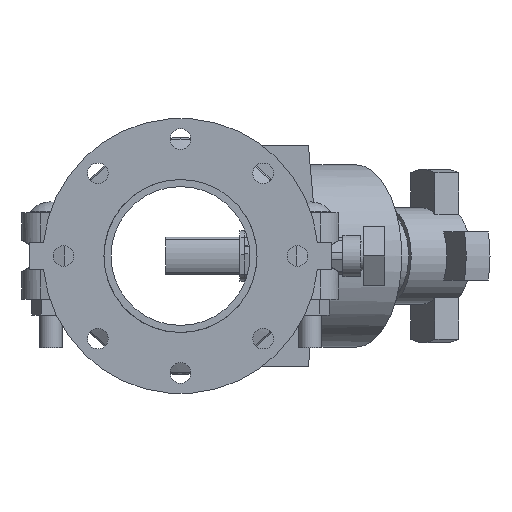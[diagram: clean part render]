
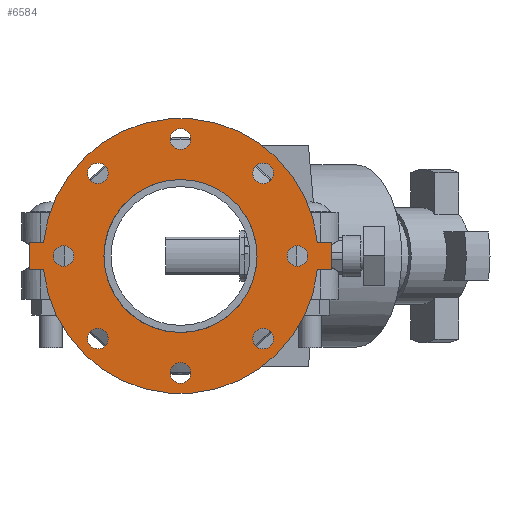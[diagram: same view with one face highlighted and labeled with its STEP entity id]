
A CAD part, front view. The second image highlights one B-rep face of the part: STEP entity #6584.
In plain terms, the highlighted planar face has unit normal (0, -1, 0) as drawn and (0, 0, 1) by its records, which use the part's own axes.
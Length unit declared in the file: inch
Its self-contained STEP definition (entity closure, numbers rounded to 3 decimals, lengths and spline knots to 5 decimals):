
#210=FACE_BOUND('',#872,.T.);
#211=FACE_BOUND('',#873,.T.);
#212=FACE_BOUND('',#874,.T.);
#213=FACE_BOUND('',#875,.T.);
#214=FACE_BOUND('',#876,.T.);
#215=FACE_BOUND('',#877,.T.);
#216=FACE_BOUND('',#878,.T.);
#217=FACE_BOUND('',#879,.T.);
#218=FACE_BOUND('',#880,.T.);
#284=PLANE('',#7166);
#504=FACE_OUTER_BOUND('',#871,.T.);
#871=EDGE_LOOP('',(#4293,#4294,#4295,#4296,#4297,#4298,#4299,#4300));
#872=EDGE_LOOP('',(#4301));
#873=EDGE_LOOP('',(#4302));
#874=EDGE_LOOP('',(#4303));
#875=EDGE_LOOP('',(#4304));
#876=EDGE_LOOP('',(#4305));
#877=EDGE_LOOP('',(#4306));
#878=EDGE_LOOP('',(#4307));
#879=EDGE_LOOP('',(#4308));
#880=EDGE_LOOP('',(#4309,#4310));
#1298=LINE('',#10084,#1789);
#1299=LINE('',#10087,#1790);
#1302=LINE('',#10092,#1793);
#1303=LINE('',#10095,#1794);
#1305=LINE('',#10098,#1796);
#1306=LINE('',#10100,#1797);
#1789=VECTOR('',#8013,0.3937);
#1790=VECTOR('',#8016,0.3937);
#1793=VECTOR('',#8021,0.3937);
#1794=VECTOR('',#8024,0.3937);
#1796=VECTOR('',#8028,0.3937);
#1797=VECTOR('',#8031,0.3937);
#2260=CIRCLE('',#7125,0.375);
#2262=CIRCLE('',#7128,0.375);
#2264=CIRCLE('',#7131,0.375);
#2266=CIRCLE('',#7134,0.375);
#2268=CIRCLE('',#7137,0.375);
#2270=CIRCLE('',#7140,0.375);
#2272=CIRCLE('',#7143,0.375);
#2274=CIRCLE('',#7146,0.375);
#2280=CIRCLE('',#7154,5.);
#2281=CIRCLE('',#7156,2.7815);
#2282=CIRCLE('',#7157,2.7815);
#2283=CIRCLE('',#7159,5.);
#2635=VERTEX_POINT('',#9995);
#2637=VERTEX_POINT('',#10001);
#2639=VERTEX_POINT('',#10007);
#2641=VERTEX_POINT('',#10013);
#2643=VERTEX_POINT('',#10019);
#2645=VERTEX_POINT('',#10025);
#2647=VERTEX_POINT('',#10031);
#2649=VERTEX_POINT('',#10037);
#2661=VERTEX_POINT('',#10064);
#2662=VERTEX_POINT('',#10066);
#2663=VERTEX_POINT('',#10070);
#2664=VERTEX_POINT('',#10072);
#2665=VERTEX_POINT('',#10076);
#2666=VERTEX_POINT('',#10078);
#2667=VERTEX_POINT('',#10082);
#2668=VERTEX_POINT('',#10086);
#2669=VERTEX_POINT('',#10090);
#2670=VERTEX_POINT('',#10094);
#3270=EDGE_CURVE('',#2635,#2635,#2260,.T.);
#3273=EDGE_CURVE('',#2637,#2637,#2262,.T.);
#3276=EDGE_CURVE('',#2639,#2639,#2264,.T.);
#3279=EDGE_CURVE('',#2641,#2641,#2266,.T.);
#3282=EDGE_CURVE('',#2643,#2643,#2268,.T.);
#3285=EDGE_CURVE('',#2645,#2645,#2270,.T.);
#3288=EDGE_CURVE('',#2647,#2647,#2272,.T.);
#3291=EDGE_CURVE('',#2649,#2649,#2274,.T.);
#3306=EDGE_CURVE('',#2661,#2662,#2280,.T.);
#3308=EDGE_CURVE('',#2664,#2663,#2281,.T.);
#3309=EDGE_CURVE('',#2663,#2664,#2282,.T.);
#3311=EDGE_CURVE('',#2666,#2665,#2283,.T.);
#3314=EDGE_CURVE('',#2662,#2667,#1298,.T.);
#3315=EDGE_CURVE('',#2668,#2666,#1299,.T.);
#3318=EDGE_CURVE('',#2665,#2669,#1302,.T.);
#3319=EDGE_CURVE('',#2670,#2661,#1303,.T.);
#3321=EDGE_CURVE('',#2669,#2670,#1305,.T.);
#3322=EDGE_CURVE('',#2667,#2668,#1306,.T.);
#4293=ORIENTED_EDGE('',*,*,#3318,.T.);
#4294=ORIENTED_EDGE('',*,*,#3321,.T.);
#4295=ORIENTED_EDGE('',*,*,#3319,.T.);
#4296=ORIENTED_EDGE('',*,*,#3306,.T.);
#4297=ORIENTED_EDGE('',*,*,#3314,.T.);
#4298=ORIENTED_EDGE('',*,*,#3322,.T.);
#4299=ORIENTED_EDGE('',*,*,#3315,.T.);
#4300=ORIENTED_EDGE('',*,*,#3311,.T.);
#4301=ORIENTED_EDGE('',*,*,#3270,.T.);
#4302=ORIENTED_EDGE('',*,*,#3273,.T.);
#4303=ORIENTED_EDGE('',*,*,#3276,.T.);
#4304=ORIENTED_EDGE('',*,*,#3279,.T.);
#4305=ORIENTED_EDGE('',*,*,#3282,.T.);
#4306=ORIENTED_EDGE('',*,*,#3285,.T.);
#4307=ORIENTED_EDGE('',*,*,#3288,.T.);
#4308=ORIENTED_EDGE('',*,*,#3291,.T.);
#4309=ORIENTED_EDGE('',*,*,#3308,.T.);
#4310=ORIENTED_EDGE('',*,*,#3309,.T.);
#6584=ADVANCED_FACE('',(#504,#210,#211,#212,#213,#214,#215,#216,#217,#218),
#284,.T.);
#7125=AXIS2_PLACEMENT_3D('',#9996,#7921,#7922);
#7128=AXIS2_PLACEMENT_3D('',#10002,#7928,#7929);
#7131=AXIS2_PLACEMENT_3D('',#10008,#7935,#7936);
#7134=AXIS2_PLACEMENT_3D('',#10014,#7942,#7943);
#7137=AXIS2_PLACEMENT_3D('',#10020,#7949,#7950);
#7140=AXIS2_PLACEMENT_3D('',#10026,#7956,#7957);
#7143=AXIS2_PLACEMENT_3D('',#10032,#7963,#7964);
#7146=AXIS2_PLACEMENT_3D('',#10038,#7970,#7971);
#7154=AXIS2_PLACEMENT_3D('',#10068,#7995,#7996);
#7156=AXIS2_PLACEMENT_3D('',#10073,#8000,#8001);
#7157=AXIS2_PLACEMENT_3D('',#10074,#8002,#8003);
#7159=AXIS2_PLACEMENT_3D('',#10079,#8007,#8008);
#7166=AXIS2_PLACEMENT_3D('',#10101,#8032,#8033);
#7921=DIRECTION('center_axis',(0.,0.,-1.));
#7922=DIRECTION('ref_axis',(-0.707,0.707,0.));
#7928=DIRECTION('center_axis',(0.,0.,-1.));
#7929=DIRECTION('ref_axis',(0.,1.,0.));
#7935=DIRECTION('center_axis',(0.,0.,-1.));
#7936=DIRECTION('ref_axis',(0.707,0.707,0.));
#7942=DIRECTION('center_axis',(0.,0.,-1.));
#7943=DIRECTION('ref_axis',(1.,0.,0.));
#7949=DIRECTION('center_axis',(0.,0.,-1.));
#7950=DIRECTION('ref_axis',(0.707,-0.707,0.));
#7956=DIRECTION('center_axis',(0.,0.,-1.));
#7957=DIRECTION('ref_axis',(0.,-1.,0.));
#7963=DIRECTION('center_axis',(0.,0.,-1.));
#7964=DIRECTION('ref_axis',(-0.707,-0.707,0.));
#7970=DIRECTION('center_axis',(0.,0.,-1.));
#7971=DIRECTION('ref_axis',(-1.,0.,0.));
#7995=DIRECTION('center_axis',(0.,0.,1.));
#7996=DIRECTION('ref_axis',(-1.,0.,0.));
#8000=DIRECTION('center_axis',(0.,0.,-1.));
#8001=DIRECTION('ref_axis',(-1.,0.,0.));
#8002=DIRECTION('center_axis',(0.,0.,-1.));
#8003=DIRECTION('ref_axis',(-1.,0.,0.));
#8007=DIRECTION('center_axis',(0.,0.,1.));
#8008=DIRECTION('ref_axis',(-1.,0.,0.));
#8013=DIRECTION('',(0.,1.,0.));
#8016=DIRECTION('',(0.,-1.,0.));
#8021=DIRECTION('',(0.,-1.,0.));
#8024=DIRECTION('',(0.,1.,0.));
#8028=DIRECTION('',(1.,0.,0.));
#8031=DIRECTION('',(-1.,0.,0.));
#8032=DIRECTION('center_axis',(0.,0.,1.));
#8033=DIRECTION('ref_axis',(1.,0.,0.));
#9995=CARTESIAN_POINT('',(-2.74004,2.74004,0.5));
#9996=CARTESIAN_POINT('Origin',(-3.0052,3.0052,0.5));
#10001=CARTESIAN_POINT('',(0.,3.875,0.5));
#10002=CARTESIAN_POINT('Origin',(0.,4.25,0.5));
#10007=CARTESIAN_POINT('',(2.74004,2.74004,0.5));
#10008=CARTESIAN_POINT('Origin',(3.0052,3.0052,0.5));
#10013=CARTESIAN_POINT('',(3.875,0.,0.5));
#10014=CARTESIAN_POINT('Origin',(4.25,0.,0.5));
#10019=CARTESIAN_POINT('',(2.74004,-2.74004,0.5));
#10020=CARTESIAN_POINT('Origin',(3.0052,-3.0052,0.5));
#10025=CARTESIAN_POINT('',(0.,-3.875,0.5));
#10026=CARTESIAN_POINT('Origin',(0.,-4.25,0.5));
#10031=CARTESIAN_POINT('',(-2.74004,-2.74004,0.5));
#10032=CARTESIAN_POINT('Origin',(-3.0052,-3.0052,0.5));
#10037=CARTESIAN_POINT('',(-3.875,0.,0.5));
#10038=CARTESIAN_POINT('Origin',(-4.25,0.,0.5));
#10064=CARTESIAN_POINT('',(0.5,-4.97494,0.5));
#10066=CARTESIAN_POINT('',(0.5,4.97494,0.5));
#10068=CARTESIAN_POINT('Origin',(0.,0.,0.5));
#10070=CARTESIAN_POINT('',(2.7815,0.,0.5));
#10072=CARTESIAN_POINT('',(0.5,2.73619,0.5));
#10073=CARTESIAN_POINT('Origin',(0.,0.,0.5));
#10074=CARTESIAN_POINT('Origin',(0.,0.,0.5));
#10076=CARTESIAN_POINT('',(-0.5,-4.97494,0.5));
#10078=CARTESIAN_POINT('',(-0.5,4.97494,0.5));
#10079=CARTESIAN_POINT('Origin',(0.,0.,0.5));
#10082=CARTESIAN_POINT('',(0.5,5.5,0.5));
#10084=CARTESIAN_POINT('',(0.5,5.5,0.5));
#10086=CARTESIAN_POINT('',(-0.5,5.5,0.5));
#10087=CARTESIAN_POINT('',(-0.5,-5.5,0.5));
#10090=CARTESIAN_POINT('',(-0.5,-5.5,0.5));
#10092=CARTESIAN_POINT('',(-0.5,-5.5,0.5));
#10094=CARTESIAN_POINT('',(0.5,-5.5,0.5));
#10095=CARTESIAN_POINT('',(0.5,5.5,0.5));
#10098=CARTESIAN_POINT('',(0.5,-5.5,0.5));
#10100=CARTESIAN_POINT('',(-0.5,5.5,0.5));
#10101=CARTESIAN_POINT('Origin',(0.,0.,0.5));
